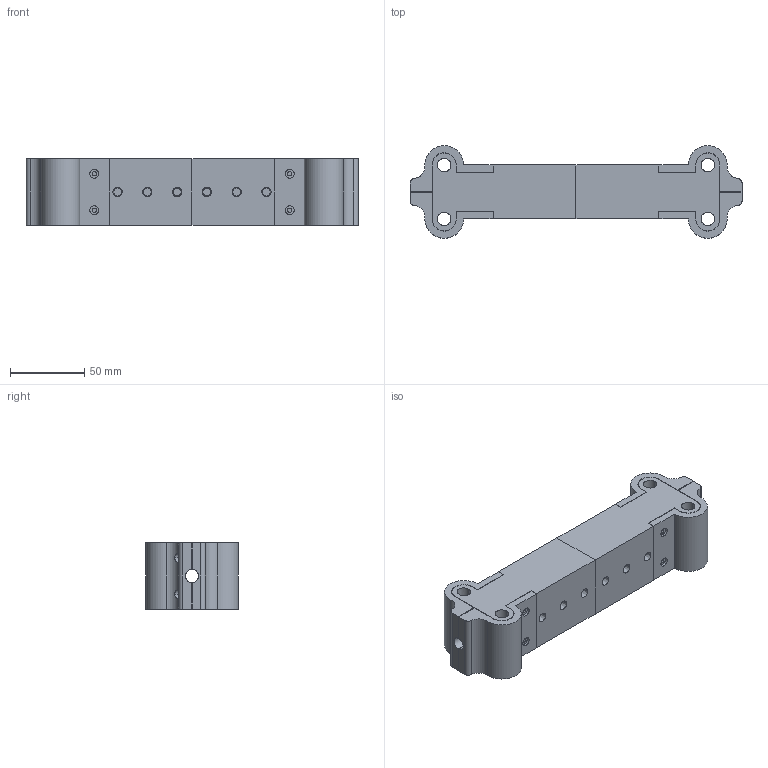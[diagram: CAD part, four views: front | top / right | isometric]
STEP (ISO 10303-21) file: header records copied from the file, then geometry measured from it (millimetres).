
FILE_DESCRIPTION(/* description */ (''),/* implementation_level */ '2;1');
FILE_NAME(/* name */ '240803-DIYUTM-Gantry',/* time_stamp */ '2024-08-03T10:04:13+02:00',/* author */ (''),/* organization */ (''),/* preprocessor_version */ 'ST-DEVELOPER v16.5',/* originating_system */ 'Rhino 7.37',/* authorisation */ '');
FILE_SCHEMA (('CONFIG_CONTROL_DESIGN'));
Length unit declared in the file: millimetre
Products named in the file (1): Document
Bounding box: 223.03 x 62.18 x 44.5 mm (x, y, z)
Volume: 346341.5 mm3; surface area: 85575.6 mm2
Topology: 5 solids, 5 shells, 344 faces, 828 edges, 536 vertices
Faces by surface type: plane 162, cylinder 110, bspline 72
Entity records: 10942 total; most frequent: CARTESIAN_POINT 5571, ORIENTED_EDGE 1656, EDGE_CURVE 828, VERTEX_POINT 536, EDGE_LOOP 432, ADVANCED_FACE 344, FACE_OUTER_BOUND 344, B_SPLINE_CURVE_WITH_KNOTS 266
